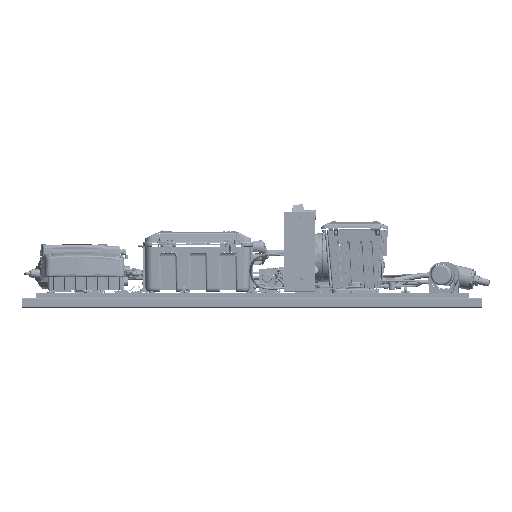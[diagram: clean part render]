
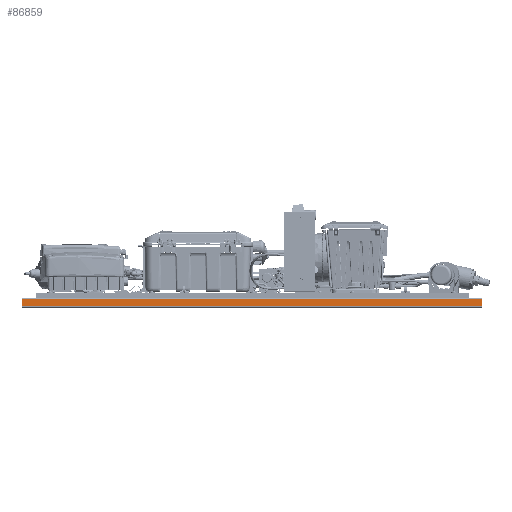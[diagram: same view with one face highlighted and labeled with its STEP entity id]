
A CAD part, left-side view. The second image highlights one B-rep face of the part: STEP entity #86859.
In plain terms, the highlighted planar face has unit normal (-1, 0, 0).
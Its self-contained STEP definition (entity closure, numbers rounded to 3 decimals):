
#23972 = ORIENTED_EDGE ( 'NONE', *, *, #207247, .F. ) ;
#42639 = ORIENTED_EDGE ( 'NONE', *, *, #262198, .T. ) ;
#53631 = AXIS2_PLACEMENT_3D ( 'NONE', #139529, #283400, #78102 ) ;
#62079 = LINE ( 'NONE', #349763, #438797 ) ;
#66940 = LINE ( 'NONE', #321579, #447378 ) ;
#78102 = DIRECTION ( 'NONE',  ( 0., 0., 1. ) ) ;
#86859 = ADVANCED_FACE ( 'NONE', ( #207963 ), #460239, .T. ) ;
#119506 = CARTESIAN_POINT ( 'NONE',  ( -15.94, 14.481, -1.094 ) ) ;
#139529 = CARTESIAN_POINT ( 'NONE',  ( -15.94, 14.481, -0.281 ) ) ;
#149471 = CARTESIAN_POINT ( 'NONE',  ( -15.94, 14.481, -0.281 ) ) ;
#178909 = CARTESIAN_POINT ( 'NONE',  ( -15.94, 14.481, -0.281 ) ) ;
#199856 = ORIENTED_EDGE ( 'NONE', *, *, #240204, .F. ) ;
#201730 = CARTESIAN_POINT ( 'NONE',  ( -15.94, -36.519, -1.094 ) ) ;
#202289 = LINE ( 'NONE', #449926, #431527 ) ;
#207247 = EDGE_CURVE ( 'NONE', #282823, #427301, #66940, .T. ) ;
#207963 = FACE_OUTER_BOUND ( 'NONE', #427141, .T. ) ;
#240204 = EDGE_CURVE ( 'NONE', #461238, #282823, #62079, .T. ) ;
#246080 = VERTEX_POINT ( 'NONE', #119506 ) ;
#253555 = ORIENTED_EDGE ( 'NONE', *, *, #324300, .T. ) ;
#262198 = EDGE_CURVE ( 'NONE', #246080, #427301, #202289, .T. ) ;
#282823 = VERTEX_POINT ( 'NONE', #323554 ) ;
#283400 = DIRECTION ( 'NONE',  ( -1., 0., 0. ) ) ;
#293318 = DIRECTION ( 'NONE',  ( 0., 0., -1. ) ) ;
#321579 = CARTESIAN_POINT ( 'NONE',  ( -15.94, -36.519, -0.281 ) ) ;
#323554 = CARTESIAN_POINT ( 'NONE',  ( -15.94, -36.519, -0.281 ) ) ;
#324300 = EDGE_CURVE ( 'NONE', #461238, #246080, #328796, .T. ) ;
#328796 = LINE ( 'NONE', #149471, #393066 ) ;
#349763 = CARTESIAN_POINT ( 'NONE',  ( -15.94, 14.481, -0.281 ) ) ;
#389792 = DIRECTION ( 'NONE',  ( 0., -1., 0. ) ) ;
#393066 = VECTOR ( 'NONE', #293318, 39.37 ) ;
#416886 = DIRECTION ( 'NONE',  ( 0., -1., 0. ) ) ;
#427141 = EDGE_LOOP ( 'NONE', ( #23972, #199856, #253555, #42639 ) ) ;
#427301 = VERTEX_POINT ( 'NONE', #201730 ) ;
#431527 = VECTOR ( 'NONE', #416886, 39.37 ) ;
#438797 = VECTOR ( 'NONE', #389792, 39.37 ) ;
#447378 = VECTOR ( 'NONE', #458337, 39.37 ) ;
#449926 = CARTESIAN_POINT ( 'NONE',  ( -15.94, 14.481, -1.094 ) ) ;
#458337 = DIRECTION ( 'NONE',  ( 0., 0., -1. ) ) ;
#460239 = PLANE ( 'NONE',  #53631 ) ;
#461238 = VERTEX_POINT ( 'NONE', #178909 ) ;
